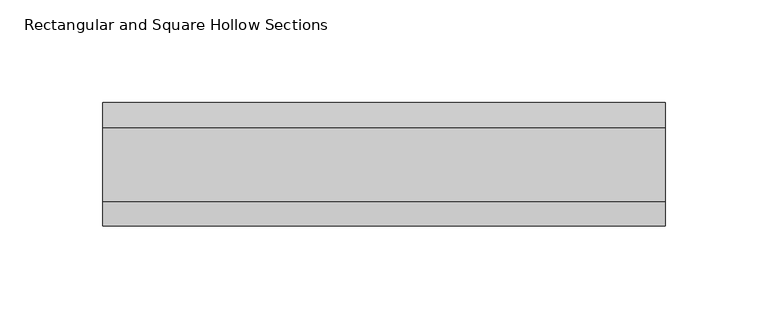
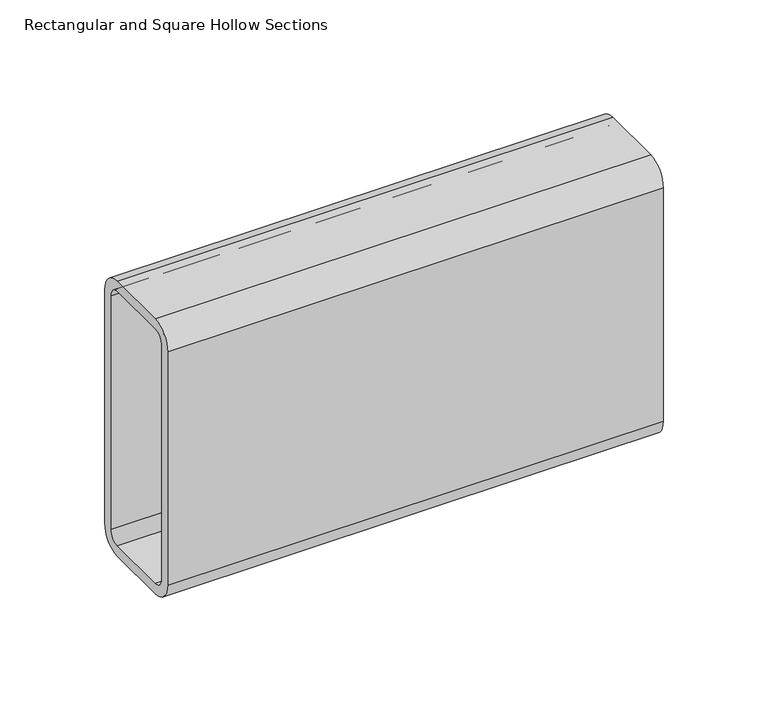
"""IFC4 building model written with IfcOpenShell, lengths in millimetres: beam geometry, Rectangular and Square Hollow Sections : TREC160x60x6."""

from ifc_helpers import new_model, si_unit, point, frame, frame_2d, origin, place, context, project, spatial, polyline, circle_curve, trimmed, segment, composite_curve, outline, extrude, source, transform, mapped, element, save


def rectangular_and_square_hollow_sections_51908efd(model_context):
    return source(origin(), model_context, "Body", "SweptSolid", [
        extrude(outline(composite_curve([segment(polyline([(30.0, 68.0), (30.0, -68.0)]), True, "CONTINUOUS"), segment(trimmed(circle_curve(frame_2d((18.0, -68.0)), 12.0), [point((30.0, -68.0))], [point((18.0, -80.0))], False, "CARTESIAN"), True, "CONTINUOUS"), segment(polyline([(18.0, -80.0), (-18.0, -80.0)]), True, "CONTINUOUS"), segment(trimmed(circle_curve(frame_2d((-18.0, -68.0)), 12.0), [point((-18.0, -80.0))], [point((-30.0, -68.0))], False, "CARTESIAN"), True, "CONTINUOUS"), segment(polyline([(-30.0, -68.0), (-30.0, 68.0)]), True, "CONTINUOUS"), segment(trimmed(circle_curve(frame_2d((-18.0, 68.0)), 12.0), [point((-30.0, 68.0))], [point((-18.0, 80.0))], False, "CARTESIAN"), True, "CONTINUOUS"), segment(polyline([(-18.0, 80.0), (18.0, 80.0)]), True, "CONTINUOUS"), segment(trimmed(circle_curve(frame_2d((18.0, 68.0)), 12.0), [point((18.0, 80.0))], [point((30.0, 68.0))], False, "CARTESIAN"), True, "CONTINUOUS")], self_intersect=False), holes=[composite_curve([segment(trimmed(circle_curve(frame_2d((-18.0, 68.0)), 6.0), [point((-18.0, 74.0))], [point((-24.0, 68.0))], True, "CARTESIAN"), True, "CONTINUOUS"), segment(polyline([(-24.0, 68.0), (-24.0, -68.0)]), True, "CONTINUOUS"), segment(trimmed(circle_curve(frame_2d((-18.0, -68.0)), 6.0), [point((-24.0, -68.0))], [point((-18.0, -74.0))], True, "CARTESIAN"), True, "CONTINUOUS"), segment(polyline([(-18.0, -74.0), (18.0, -74.0)]), True, "CONTINUOUS"), segment(trimmed(circle_curve(frame_2d((18.0, -68.0)), 6.0), [point((18.0, -74.0))], [point((24.0, -68.0))], True, "CARTESIAN"), True, "CONTINUOUS"), segment(polyline([(24.0, -68.0), (24.0, 68.0)]), True, "CONTINUOUS"), segment(trimmed(circle_curve(frame_2d((18.0, 68.0)), 6.0), [point((24.0, 68.0))], [point((18.0, 74.0))], True, "CARTESIAN"), True, "CONTINUOUS"), segment(polyline([(18.0, 74.0), (-18.0, 74.0)]), True, "CONTINUOUS")], self_intersect=False)]), frame((-137.0, 0.0, 0.0), z_axis=(1.0, 0.0, 0.0), x_axis=(0.0, 1.0, 0.0)), (0.0, 0.0, 1.0), 273.0),
    ])


if __name__ == "__main__":
    model = new_model("IFC4")
    model_context = context("Model", 3, world=origin())
    ifc_project = project(units=[si_unit("LENGTHUNIT", "METRE", prefix="MILLI")], contexts=[model_context])
    site = spatial("IfcSite", under=ifc_project)
    building = spatial("IfcBuilding", under=site)
    placement = place(None, origin())
    rectangular_and_square_hollow_sections_shape = rectangular_and_square_hollow_sections_51908efd(model_context)
    element("IfcBeam", 1, ObjectType="Rectangular and Square Hollow Sections : TREC160x60x6", at=placement, inside=building, context=model_context, shape_type="MappedRepresentation", body=[
        mapped(rectangular_and_square_hollow_sections_shape, transform((0.0, 0.0, 0.0), x_axis=(1.0, 0.0, 0.0), y_axis=(0.0, 1.0, 0.0), z_axis=(0.0, 0.0, 1.0))),
    ])
    save(model, "model.ifc")
